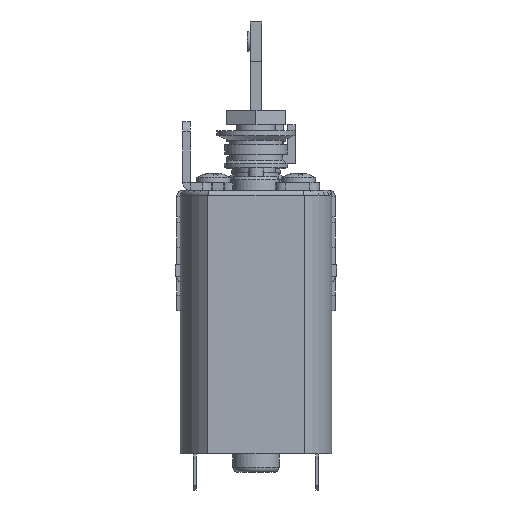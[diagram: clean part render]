
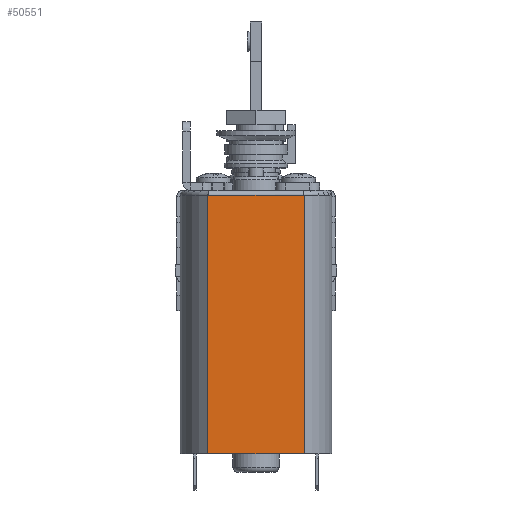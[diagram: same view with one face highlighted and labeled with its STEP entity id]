
A CAD part, left-side view. The second image highlights one B-rep face of the part: STEP entity #50551.
In plain terms, the highlighted planar face has unit normal (-1, 0, 0).
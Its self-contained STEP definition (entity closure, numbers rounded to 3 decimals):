
#43997 = VERTEX_POINT('',#43998);
#43998 = CARTESIAN_POINT('',(-60.5,4.905,-8.7));
#44042 = CYLINDRICAL_SURFACE('',#44043,0.5);
#44043 = AXIS2_PLACEMENT_3D('',#44044,#44045,#44046);
#44044 = CARTESIAN_POINT('',(-60.,-4.905,-8.7));
#44045 = DIRECTION('',(0.,1.,0.));
#44046 = DIRECTION('',(0.,0.,1.));
#44084 = CYLINDRICAL_SURFACE('',#44085,7.75);
#44085 = AXIS2_PLACEMENT_3D('',#44086,#44087,#44088);
#44086 = CARTESIAN_POINT('',(-54.5,0.,-8.2));
#44087 = DIRECTION('',(0.,0.,1.));
#44088 = DIRECTION('',(0.,-1.,0.));
#47655 = VERTEX_POINT('',#47656);
#47656 = CARTESIAN_POINT('',(-60.5,-4.905,-8.7));
#47737 = CYLINDRICAL_SURFACE('',#47738,7.75);
#47738 = AXIS2_PLACEMENT_3D('',#47739,#47740,#47741);
#47739 = CARTESIAN_POINT('',(-54.5,0.,-8.2));
#47740 = DIRECTION('',(0.,0.,1.));
#47741 = DIRECTION('',(0.,-1.,0.));
#47815 = PLANE('',#47816);
#47816 = AXIS2_PLACEMENT_3D('',#47817,#47818,#47819);
#47817 = CARTESIAN_POINT('',(-54.5,0.,-35.1));
#47818 = DIRECTION('',(0.,0.,1.));
#47819 = DIRECTION('',(0.,-1.,0.));
#47911 = EDGE_CURVE('',#47655,#43997,#47912,.T.);
#47912 = SURFACE_CURVE('',#47913,(#47917,#47924),.PCURVE_S1.);
#47913 = LINE('',#47914,#47915);
#47914 = CARTESIAN_POINT('',(-60.5,-4.905,-8.7));
#47915 = VECTOR('',#47916,1.);
#47916 = DIRECTION('',(0.,1.,0.));
#47917 = PCURVE('',#44042,#47918);
#47918 = DEFINITIONAL_REPRESENTATION('',(#47919),#47923);
#47919 = LINE('',#47920,#47921);
#47920 = CARTESIAN_POINT('',(-1.571,0.));
#47921 = VECTOR('',#47922,1.);
#47922 = DIRECTION('',(-0.,1.));
#47923 = ( GEOMETRIC_REPRESENTATION_CONTEXT(2) 
PARAMETRIC_REPRESENTATION_CONTEXT() REPRESENTATION_CONTEXT('2D SPACE',''
  ) );
#47924 = PCURVE('',#47925,#47930);
#47925 = PLANE('',#47926);
#47926 = AXIS2_PLACEMENT_3D('',#47927,#47928,#47929);
#47927 = CARTESIAN_POINT('',(-60.5,12.,-41.2));
#47928 = DIRECTION('',(1.,0.,0.));
#47929 = DIRECTION('',(0.,0.,1.));
#47930 = DEFINITIONAL_REPRESENTATION('',(#47931),#47935);
#47931 = LINE('',#47932,#47933);
#47932 = CARTESIAN_POINT('',(32.5,16.905));
#47933 = VECTOR('',#47934,1.);
#47934 = DIRECTION('',(0.,-1.));
#47935 = ( GEOMETRIC_REPRESENTATION_CONTEXT(2) 
PARAMETRIC_REPRESENTATION_CONTEXT() REPRESENTATION_CONTEXT('2D SPACE',''
  ) );
#47964 = EDGE_CURVE('',#47965,#43997,#47967,.T.);
#47965 = VERTEX_POINT('',#47966);
#47966 = CARTESIAN_POINT('',(-60.5,4.905,-35.1));
#47967 = SURFACE_CURVE('',#47968,(#47972,#47978),.PCURVE_S1.);
#47968 = LINE('',#47969,#47970);
#47969 = CARTESIAN_POINT('',(-60.5,4.905,-8.2));
#47970 = VECTOR('',#47971,1.);
#47971 = DIRECTION('',(0.,0.,1.));
#47972 = PCURVE('',#44084,#47973);
#47973 = DEFINITIONAL_REPRESENTATION('',(#47974),#47977);
#47974 = B_SPLINE_CURVE_WITH_KNOTS('',1,(#47975,#47976),.UNSPECIFIED.,
  .F.,.F.,(2,2),(-26.9,0.),.PIECEWISE_BEZIER_KNOTS.);
#47975 = CARTESIAN_POINT('',(4.027,-26.9));
#47976 = CARTESIAN_POINT('',(4.027,0.));
#47977 = ( GEOMETRIC_REPRESENTATION_CONTEXT(2) 
PARAMETRIC_REPRESENTATION_CONTEXT() REPRESENTATION_CONTEXT('2D SPACE',''
  ) );
#47978 = PCURVE('',#47925,#47979);
#47979 = DEFINITIONAL_REPRESENTATION('',(#47980),#47983);
#47980 = B_SPLINE_CURVE_WITH_KNOTS('',1,(#47981,#47982),.UNSPECIFIED.,
  .F.,.F.,(2,2),(-26.9,0.),.PIECEWISE_BEZIER_KNOTS.);
#47981 = CARTESIAN_POINT('',(6.1,7.095));
#47982 = CARTESIAN_POINT('',(33.,7.095));
#47983 = ( GEOMETRIC_REPRESENTATION_CONTEXT(2) 
PARAMETRIC_REPRESENTATION_CONTEXT() REPRESENTATION_CONTEXT('2D SPACE',''
  ) );
#50189 = EDGE_CURVE('',#50190,#47655,#50192,.T.);
#50190 = VERTEX_POINT('',#50191);
#50191 = CARTESIAN_POINT('',(-60.5,-4.905,-35.1));
#50192 = SURFACE_CURVE('',#50193,(#50197,#50203),.PCURVE_S1.);
#50193 = LINE('',#50194,#50195);
#50194 = CARTESIAN_POINT('',(-60.5,-4.905,-8.2));
#50195 = VECTOR('',#50196,1.);
#50196 = DIRECTION('',(0.,0.,1.));
#50197 = PCURVE('',#47737,#50198);
#50198 = DEFINITIONAL_REPRESENTATION('',(#50199),#50202);
#50199 = B_SPLINE_CURVE_WITH_KNOTS('',1,(#50200,#50201),.UNSPECIFIED.,
  .F.,.F.,(2,2),(-26.9,0.),.PIECEWISE_BEZIER_KNOTS.);
#50200 = CARTESIAN_POINT('',(5.398,-26.9));
#50201 = CARTESIAN_POINT('',(5.398,0.));
#50202 = ( GEOMETRIC_REPRESENTATION_CONTEXT(2) 
PARAMETRIC_REPRESENTATION_CONTEXT() REPRESENTATION_CONTEXT('2D SPACE',''
  ) );
#50203 = PCURVE('',#47925,#50204);
#50204 = DEFINITIONAL_REPRESENTATION('',(#50205),#50208);
#50205 = B_SPLINE_CURVE_WITH_KNOTS('',1,(#50206,#50207),.UNSPECIFIED.,
  .F.,.F.,(2,2),(-26.9,0.),.PIECEWISE_BEZIER_KNOTS.);
#50206 = CARTESIAN_POINT('',(6.1,16.905));
#50207 = CARTESIAN_POINT('',(33.,16.905));
#50208 = ( GEOMETRIC_REPRESENTATION_CONTEXT(2) 
PARAMETRIC_REPRESENTATION_CONTEXT() REPRESENTATION_CONTEXT('2D SPACE',''
  ) );
#50237 = EDGE_CURVE('',#50190,#47965,#50238,.T.);
#50238 = SURFACE_CURVE('',#50239,(#50243,#50249),.PCURVE_S1.);
#50239 = LINE('',#50240,#50241);
#50240 = CARTESIAN_POINT('',(-60.5,6.,-35.1));
#50241 = VECTOR('',#50242,1.);
#50242 = DIRECTION('',(0.,1.,0.));
#50243 = PCURVE('',#47815,#50244);
#50244 = DEFINITIONAL_REPRESENTATION('',(#50245),#50248);
#50245 = B_SPLINE_CURVE_WITH_KNOTS('',1,(#50246,#50247),.UNSPECIFIED.,
  .F.,.F.,(2,2),(-13.75,1.75),.PIECEWISE_BEZIER_KNOTS.);
#50246 = CARTESIAN_POINT('',(7.75,-6.));
#50247 = CARTESIAN_POINT('',(-7.75,-6.));
#50248 = ( GEOMETRIC_REPRESENTATION_CONTEXT(2) 
PARAMETRIC_REPRESENTATION_CONTEXT() REPRESENTATION_CONTEXT('2D SPACE',''
  ) );
#50249 = PCURVE('',#47925,#50250);
#50250 = DEFINITIONAL_REPRESENTATION('',(#50251),#50254);
#50251 = B_SPLINE_CURVE_WITH_KNOTS('',1,(#50252,#50253),.UNSPECIFIED.,
  .F.,.F.,(2,2),(-13.75,1.75),.PIECEWISE_BEZIER_KNOTS.);
#50252 = CARTESIAN_POINT('',(6.1,19.75));
#50253 = CARTESIAN_POINT('',(6.1,4.25));
#50254 = ( GEOMETRIC_REPRESENTATION_CONTEXT(2) 
PARAMETRIC_REPRESENTATION_CONTEXT() REPRESENTATION_CONTEXT('2D SPACE',''
  ) );
#50551 = ADVANCED_FACE('',(#50552),#47925,.F.);
#50552 = FACE_BOUND('',#50553,.F.);
#50553 = EDGE_LOOP('',(#50554,#50555,#50556,#50557));
#50554 = ORIENTED_EDGE('',*,*,#47964,.T.);
#50555 = ORIENTED_EDGE('',*,*,#47911,.F.);
#50556 = ORIENTED_EDGE('',*,*,#50189,.F.);
#50557 = ORIENTED_EDGE('',*,*,#50237,.T.);
